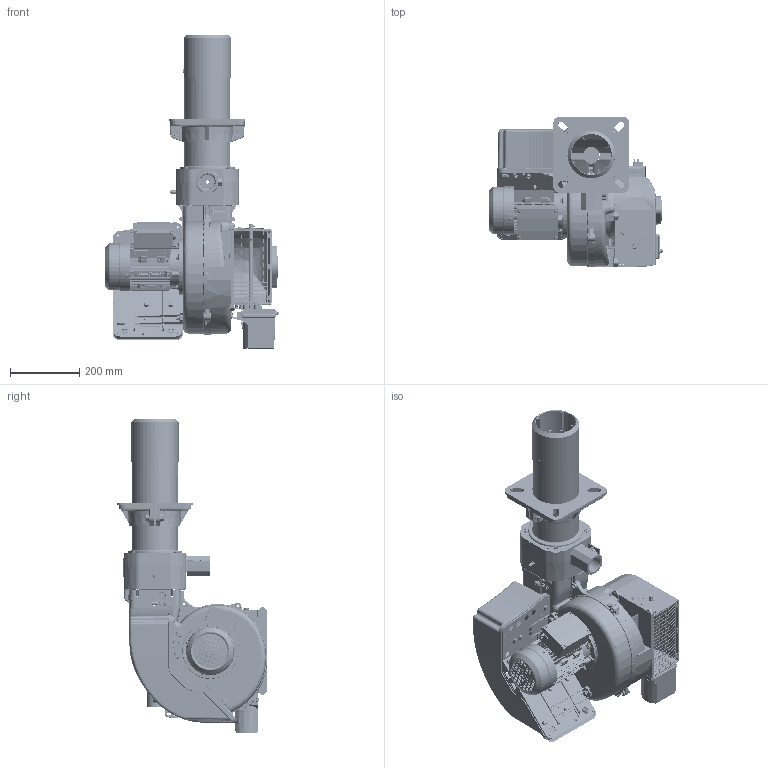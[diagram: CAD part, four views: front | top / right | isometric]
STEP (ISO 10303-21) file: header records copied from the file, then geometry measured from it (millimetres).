
FILE_DESCRIPTION (( 'STEP AP214' ), '1' );
FILE_NAME ('17210010-106379.STEP', '2017-10-18T09:03:35', ( '' ), ( '' ), 'SwSTEP 2.0', 'SolidWorks 2016', '' );
FILE_SCHEMA (( 'AUTOMOTIVE_DESIGN' ));
Length unit declared in the file: millimetre
Products named in the file (1): 17210010-106379
Bounding box: 503.66 x 434.26 x 908 mm (x, y, z)
Surface area: 2246428.9 mm2 (no closed solid volume)
Topology: 0 solids, 216 shells, 3693 faces, 15213 edges, 11307 vertices
Faces by surface type: plane 1758, cylinder 931, bspline 683, cone 288, torus 21, sphere 12
Full cylindrical faces by diameter (mm): 1.6 x1, 2.5 x2, 3.5 x1, 3.6 x2, 4 x3, 4.2 x7, 4.5 x1, 4.6 x3, 5 x15, 5.1 x1, 5.4 x1, 5.5 x2, 5.7 x4, 5.8 x2, 6 x4, 6.5 x2, 6.75 x2, 7 x6, 8 x15, 8.8 x1, 9 x1, 9.3 x4, 9.5 x12, 10 x3, 12 x1, 12.649 x1, 13 x1, 13.157 x1, 14 x5, 14.5 x1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
Entity records: 283447 total; most frequent: CARTESIAN_POINT 150116, ORIENTED_EDGE 21495, DIRECTION 17121, EDGE_CURVE 14814, VERTEX_POINT 11230, VECTOR 7581, LINE 7581, B_SPLINE_CURVE_WITH_KNOTS 5164
